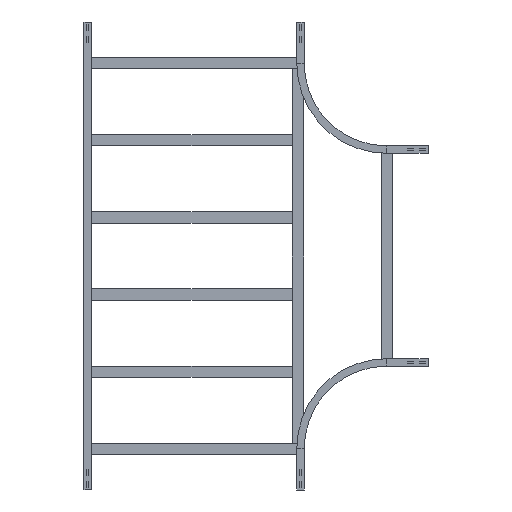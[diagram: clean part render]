
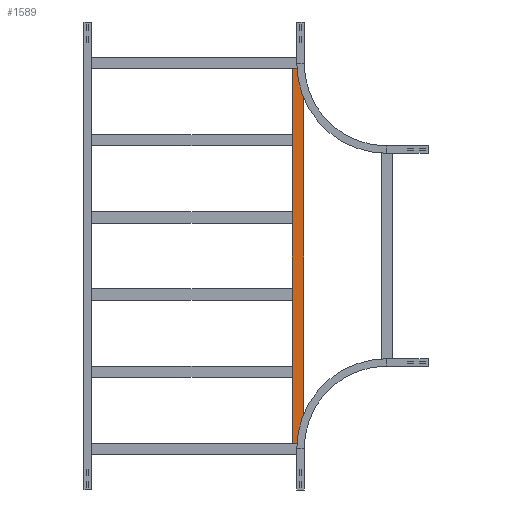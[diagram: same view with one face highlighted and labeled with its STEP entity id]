
A CAD part, front view. The second image highlights one B-rep face of the part: STEP entity #1589.
In plain terms, the highlighted planar face has unit normal (0, -1, 0).
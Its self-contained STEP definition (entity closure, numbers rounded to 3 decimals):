
#29 = LINE ( 'NONE', #289, #925 ) ;
#190 = DIRECTION ( 'NONE',  ( 0., 0., -1. ) ) ;
#197 = DIRECTION ( 'NONE',  ( -1., 0., 0. ) ) ;
#286 = PLANE ( 'NONE',  #3574 ) ;
#289 = CARTESIAN_POINT ( 'NONE',  ( -679.75, 0., 20.25 ) ) ;
#580 = EDGE_LOOP ( 'NONE', ( #2030, #1950, #773, #1253 ) ) ;
#637 = VECTOR ( 'NONE', #3744, 1000. ) ;
#773 = ORIENTED_EDGE ( 'NONE', *, *, #1501, .F. ) ;
#790 = CARTESIAN_POINT ( 'NONE',  ( 679.75, 0., 20.25 ) ) ;
#925 = VECTOR ( 'NONE', #2714, 1000. ) ;
#1134 = VERTEX_POINT ( 'NONE', #1480 ) ;
#1253 = ORIENTED_EDGE ( 'NONE', *, *, #3385, .T. ) ;
#1331 = CARTESIAN_POINT ( 'NONE',  ( -679.75, 0., 20.25 ) ) ;
#1399 = LINE ( 'NONE', #1919, #637 ) ;
#1433 = DIRECTION ( 'NONE',  ( 0., 1., 0. ) ) ;
#1453 = VERTEX_POINT ( 'NONE', #1990 ) ;
#1480 = CARTESIAN_POINT ( 'NONE',  ( 679.75, 0., 20.25 ) ) ;
#1501 = EDGE_CURVE ( 'NONE', #1134, #3425, #3823, .T. ) ;
#1589 = ADVANCED_FACE ( 'NONE', ( #2022 ), #286, .F. ) ;
#1741 = LINE ( 'NONE', #2930, #3734 ) ;
#1919 = CARTESIAN_POINT ( 'NONE',  ( 679.75, 0., -20.25 ) ) ;
#1950 = ORIENTED_EDGE ( 'NONE', *, *, #2305, .F. ) ;
#1984 = DIRECTION ( 'NONE',  ( 0., 0., 1. ) ) ;
#1990 = CARTESIAN_POINT ( 'NONE',  ( -679.75, 0., -20.25 ) ) ;
#2022 = FACE_OUTER_BOUND ( 'NONE', #580, .T. ) ;
#2030 = ORIENTED_EDGE ( 'NONE', *, *, #3085, .T. ) ;
#2039 = CARTESIAN_POINT ( 'NONE',  ( 679.75, 0., -20.25 ) ) ;
#2305 = EDGE_CURVE ( 'NONE', #3425, #1453, #1399, .T. ) ;
#2606 = CARTESIAN_POINT ( 'NONE',  ( 679.75, 0., 20.25 ) ) ;
#2631 = VECTOR ( 'NONE', #190, 1000. ) ;
#2714 = DIRECTION ( 'NONE',  ( 0., 0., -1. ) ) ;
#2930 = CARTESIAN_POINT ( 'NONE',  ( 679.75, 0., 20.25 ) ) ;
#3085 = EDGE_CURVE ( 'NONE', #3678, #1453, #29, .T. ) ;
#3385 = EDGE_CURVE ( 'NONE', #1134, #3678, #1741, .T. ) ;
#3425 = VERTEX_POINT ( 'NONE', #2039 ) ;
#3574 = AXIS2_PLACEMENT_3D ( 'NONE', #790, #1433, #1984 ) ;
#3678 = VERTEX_POINT ( 'NONE', #1331 ) ;
#3734 = VECTOR ( 'NONE', #197, 1000. ) ;
#3744 = DIRECTION ( 'NONE',  ( -1., 0., 0. ) ) ;
#3823 = LINE ( 'NONE', #2606, #2631 ) ;
